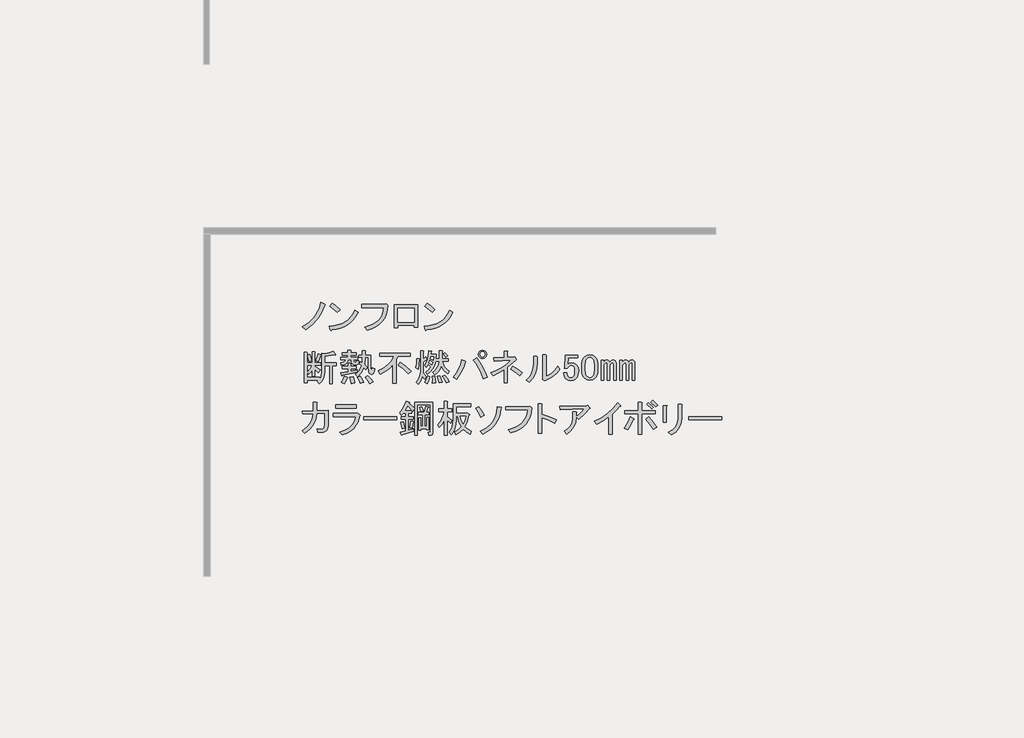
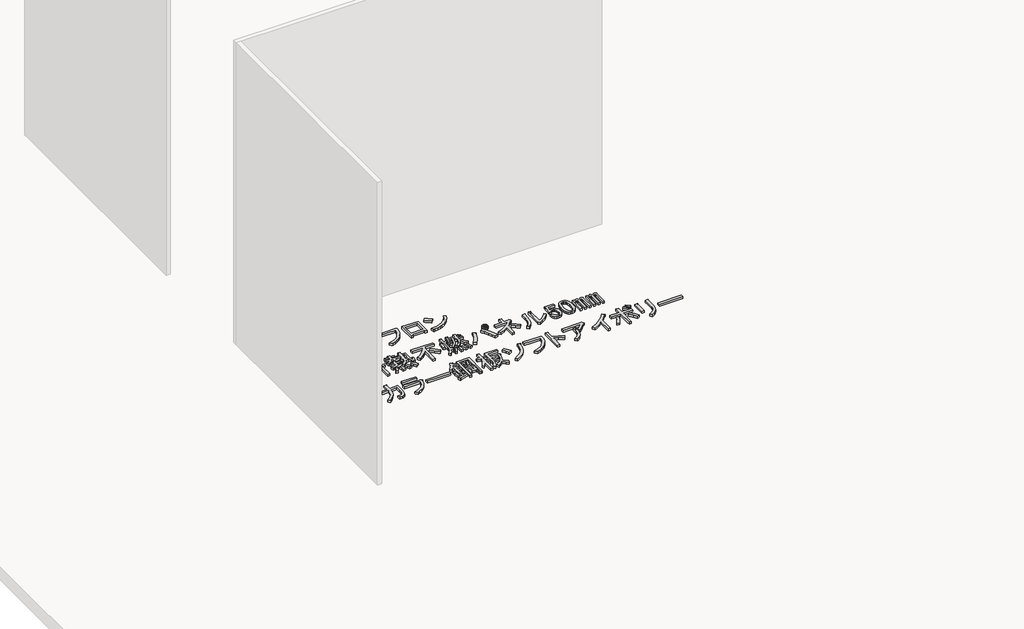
# One storey, part 7 of 117: 1 proxy.
"""IFC4 building model written with IfcOpenShell, lengths in millimetres."""

from ifc_helpers import new_model, si_unit, frame, origin, place, context, project, spatial, polyline, outline, extrude, element, save

model = new_model("IFC4")

# Units and contexts
model_context = context("Model", 3, world=origin())
ifc_project = project(units=[si_unit("LENGTHUNIT", "METRE", prefix="MILLI")], contexts=[model_context])

# Site, building, storey
site = spatial("IfcSite", under=ifc_project)
building = spatial("IfcBuilding", under=site)
storey = spatial("IfcBuildingStorey", under=building, Name="レベル 1", Elevation=500.0)

# Proxy
placement = place(None, origin())
element("IfcBuildingElementProxy", 1, Name="200㎜\u3000MS Pゴシック", ObjectType="200㎜\u3000MS Pゴシック", at=placement, inside=storey, context=model_context, shape_type="SweptSolid", body=[
    extrude(outline(polyline([(-23056.3293015, -24607.0496882), (-23081.9047498, -24666.8215225), (-23110.353844, -24712.7998566), (-23152.0217093, -24758.2034615), (-23201.1610538, -24795.560858), (-23228.7480543, -24773.7211493), (-23181.0455327, -24743.2605029), (-23141.3892195, -24704.7536481), (-23124.0036619, -24680.8305462), (-23108.6296565, -24652.7406577), (-23095.2672031, -24620.4839827), (-23083.9163019, -24584.0605212), (-23052.8809264, -24597.8540214), (-23049.7199159, -24602.4518548), (-23056.3293015, -24607.0496882)])), frame((0.0, 0.0, 500.0), z_axis=(0.0, 0.0, 1.0), x_axis=(1.0, 0.0, 0.0)), (0.0, 0.0, 1.0), 25.0),
    extrude(outline(polyline([(-22956.6022948, -24662.2236891), (-23015.2246708, -24615.0958967), (-22995.6838788, -24590.9572713), (-22968.3842429, -24610.7854279), (-22934.7625862, -24640.3839804), (-22956.6022948, -24662.2236891)])), frame((0.0, 0.0, 500.0), z_axis=(0.0, 0.0, 1.0), x_axis=(1.0, 0.0, 0.0)), (0.0, 0.0, 1.0), 25.0),
    extrude(outline(polyline([(-22794.5286672, -24662.2236891), (-22811.052131, -24691.965924), (-22830.1618761, -24717.9724192), (-22851.8579025, -24740.2431748), (-22876.1402102, -24758.7781907), (-22903.0087992, -24773.577467), (-22932.4636694, -24784.6410036), (-22964.504821, -24791.9688006), (-22999.1322539, -24795.560858), (-23004.8795456, -24803.6070664), (-23010.6268374, -24797.8597747), (-23019.8225042, -24767.9738575), (-22983.9917321, -24765.2977748), (-22951.2142088, -24758.9937141), (-22921.4899342, -24749.0616756), (-22894.8189084, -24735.5016591), (-22871.2011313, -24718.3136646), (-22850.636603, -24697.4976923), (-22833.1253234, -24673.053742), (-22818.6672926, -24644.9818138), (-22794.5286672, -24662.2236891)])), frame((0.0, 0.0, 500.0), z_axis=(0.0, 0.0, 1.0), x_axis=(1.0, 0.0, 0.0)), (0.0, 0.0, 1.0), 25.0),
    extrude(outline(polyline([(-22743.7685864, -24777.1695243), (-22709.985287, -24767.4889298), (-22680.4765359, -24755.1142922), (-22655.242333, -24740.0456116), (-22634.2826783, -24722.282888), (-22617.597572, -24701.8261214), (-22605.1870138, -24678.6753118), (-22597.0510039, -24652.8304591), (-22593.1895423, -24624.2915635), (-22765.6082951, -24624.2915635), (-22765.6082951, -24599.0034798), (-22590.8906256, -24599.0034798), (-22574.7982086, -24595.5551047), (-22562.1541668, -24607.0496882), (-22565.674383, -24643.5449909), (-22573.9361149, -24676.5919185), (-22586.9393625, -24706.1904711), (-22604.6841258, -24732.3406486), (-22627.1704048, -24755.042451), (-22654.3981995, -24774.2958784), (-22686.3675099, -24790.1009308), (-22723.078336, -24802.4576081), (-22743.7685864, -24777.1695243)])), frame((0.0, 0.0, 500.0), z_axis=(0.0, 0.0, 1.0), x_axis=(1.0, 0.0, 0.0)), (0.0, 0.0, 1.0), 25.0),
    extrude(outline(polyline([(-22329.044013, -24776.020066), (-22355.4815551, -24776.020066), (-22355.4815551, -24763.3760241), (-22483.0714321, -24763.3760241), (-22483.0714321, -24781.7673577), (-22509.5089742, -24781.7673577), (-22509.5089742, -24602.4518548), (-22329.044013, -24602.4518548), (-22329.044013, -24776.020066)]), holes=[polyline([(-22483.0714321, -24627.7399386), (-22483.0714321, -24738.0879404), (-22355.4815551, -24738.0879404), (-22355.4815551, -24627.7399386), (-22483.0714321, -24627.7399386)])]), frame((0.0, 0.0, 500.0), z_axis=(0.0, 0.0, 1.0), x_axis=(1.0, 0.0, 0.0)), (0.0, 0.0, 1.0), 25.0),
    extrude(outline(polyline([(-22052.9900951, -24662.2236891), (-22069.5135589, -24691.965924), (-22088.623304, -24717.9724192), (-22110.3193304, -24740.2431748), (-22134.6016381, -24758.7781907), (-22161.4702271, -24773.577467), (-22190.9250974, -24784.6410036), (-22222.9662489, -24791.9688006), (-22257.5936818, -24795.560858), (-22263.3409736, -24803.6070664), (-22269.0882653, -24797.8597747), (-22278.2839321, -24767.9738575), (-22242.4531601, -24765.2977748), (-22209.6756367, -24758.9937141), (-22179.9513622, -24749.0616756), (-22153.2803363, -24735.5016591), (-22129.6625593, -24718.3136646), (-22109.0980309, -24697.4976923), (-22091.5867514, -24673.053742), (-22077.1287205, -24644.9818138), (-22052.9900951, -24662.2236891)])), frame((0.0, 0.0, 500.0), z_axis=(0.0, 0.0, 1.0), x_axis=(1.0, 0.0, 0.0)), (0.0, 0.0, 1.0), 25.0),
    extrude(outline(polyline([(-22215.0637228, -24662.2236891), (-22273.6860987, -24615.0958967), (-22254.1453067, -24590.9572713), (-22226.8456709, -24610.7854279), (-22193.2240141, -24640.3839804), (-22215.0637228, -24662.2236891)])), frame((0.0, 0.0, 500.0), z_axis=(0.0, 0.0, 1.0), x_axis=(1.0, 0.0, 0.0)), (0.0, 0.0, 1.0), 25.0),
    extrude(outline(polyline([(-23122.9978859, -25039.2345221), (-23105.7560106, -24986.3594379), (-23085.0657603, -24992.1067296), (-23083.3415727, -24995.2677401), (-23087.364677, -24997.8540214), (-23104.6065523, -25046.1312722), (-23122.9978859, -25039.2345221)])), frame((0.0, 0.0, 500.0), z_axis=(0.0, 0.0, 1.0), x_axis=(1.0, 0.0, 0.0)), (0.0, 0.0, 1.0), 25.0),
    extrude(outline(polyline([(-22968.9704667, -24990.9572713), (-22970.6946542, -24995.5551047), (-22978.1661335, -24993.256188), (-23055.1798431, -25005.9002299), (-23055.1798431, -25055.326939), (-22963.2231749, -25055.326939), (-22963.2231749, -25077.1666477), (-22994.2585505, -25077.1666477), (-22994.2585505, -25217.4005666), (-23017.2477175, -25217.4005666), (-23017.2477175, -25077.1666477), (-23055.1798431, -25077.1666477), (-23055.1798431, -25126.5933568), (-23057.7661244, -25154.3958807), (-23065.5249683, -25179.1810764), (-23078.4563747, -25200.948944), (-23096.5603438, -25219.6994833), (-23113.8022191, -25200.1586914), (-23103.4570939, -25190.9630245), (-23193.1148454, -25190.9630245), (-23193.1148454, -25212.8027332), (-23216.1040124, -25212.8027332), (-23216.1040124, -24973.715396), (-23194.2643037, -24973.715396), (-23189.3791057, -24976.0143127), (-23193.1148454, -24980.6121461), (-23193.1148454, -25056.4763974), (-23150.5848863, -25056.4763974), (-23150.5848863, -24969.1175626), (-23132.1935527, -24969.1175626), (-23127.3083547, -24971.4164793), (-23131.0440943, -24976.0143127), (-23131.0440943, -25056.4763974), (-23087.364677, -25056.4763974), (-23087.364677, -25074.867731), (-23131.0440943, -25074.867731), (-23131.0440943, -25084.0633978), (-23090.813052, -25110.5009399), (-23104.6065523, -25132.3406486), (-23131.0440943, -25105.9031065), (-23131.0440943, -25158.7781907), (-23150.5848863, -25158.7781907), (-23150.5848863, -25110.5009399), (-23163.8036574, -25130.3290965), (-23178.1718868, -25146.1341488), (-23190.8159287, -25127.7428152), (-23168.97622, -25103.6041898), (-23151.7343447, -25074.867731), (-23193.1148454, -25074.867731), (-23193.1148454, -25169.1233159), (-23095.4108854, -25169.1233159), (-23095.4108854, -25182.9168161), (-23082.479479, -25158.7781907), (-23078.1690102, -25125.4438985), (-23078.1690102, -24980.6121461), (-23056.3293015, -24986.3594379), (-23020.1213634, -24978.8879586), (-22989.660717, -24965.6691875), (-22968.9704667, -24990.9572713)])), frame((0.0, 0.0, 500.0), z_axis=(0.0, 0.0, 1.0), x_axis=(1.0, 0.0, 0.0)), (0.0, 0.0, 1.0), 25.0),
    extrude(outline(polyline([(-23177.0224284, -25047.2807305), (-23189.6664703, -24996.7045631), (-23170.1256783, -24989.8078129), (-23162.3668344, -25013.9464383), (-23157.4816364, -25040.3839804), (-23177.0224284, -25047.2807305)])), frame((0.0, 0.0, 500.0), z_axis=(0.0, 0.0, 1.0), x_axis=(1.0, 0.0, 0.0)), (0.0, 0.0, 1.0), 25.0),
    extrude(outline(polyline([(-22878.1632569, -25167.9738575), (-22874.7148818, -25172.8590555), (-22880.4621736, -25176.020066), (-22890.2325696, -25201.5955143), (-22901.1524239, -25220.8489417), (-22924.141591, -25209.3543582), (-22911.4975491, -25185.790462), (-22901.1524239, -25158.7781907), (-22878.1632569, -25167.9738575)])), frame((0.0, 0.0, 500.0), z_axis=(0.0, 0.0, 1.0), x_axis=(1.0, 0.0, 0.0)), (0.0, 0.0, 1.0), 25.0),
    extrude(outline(polyline([(-22833.3343812, -25163.3760241), (-22823.2766206, -25190.67566), (-22818.3914226, -25212.8027332), (-22847.1278814, -25218.550025), (-22849.7141627, -25196.9976809), (-22857.4730066, -25166.8243992), (-22833.3343812, -25163.3760241)])), frame((0.0, 0.0, 500.0), z_axis=(0.0, 0.0, 1.0), x_axis=(1.0, 0.0, 0.0)), (0.0, 0.0, 1.0), 25.0),
    extrude(outline(polyline([(-22718.388546, -25157.6287323), (-22693.6751914, -25178.8937119), (-22674.7091286, -25203.6070664), (-22701.1466707, -25218.550025), (-22720.4000981, -25188.9514724), (-22739.0787963, -25169.1233159), (-22718.388546, -25157.6287323)])), frame((0.0, 0.0, 500.0), z_axis=(0.0, 0.0, 1.0), x_axis=(1.0, 0.0, 0.0)), (0.0, 0.0, 1.0), 25.0),
    extrude(outline(polyline([(-22777.0109219, -25216.2511083), (-22785.344495, -25191.5377537), (-22798.8506306, -25170.2727742), (-22778.1603803, -25162.2265657), (-22761.2058696, -25183.7789098), (-22749.4239215, -25207.0554415), (-22777.0109219, -25216.2511083)])), frame((0.0, 0.0, 500.0), z_axis=(0.0, 0.0, 1.0), x_axis=(1.0, 0.0, 0.0)), (0.0, 0.0, 1.0), 25.0),
    extrude(outline(polyline([(-22916.0953825, -25153.0308989), (-22918.1069346, -25157.9160969), (-22921.8426743, -25156.479274), (-22927.589966, -25132.3406486), (-22872.4159651, -25124.2944401), (-22872.4159651, -25101.3052731), (-22916.0953825, -25101.3052731), (-22916.0953825, -25082.9139395), (-22872.4159651, -25082.9139395), (-22872.4159651, -25059.9247724), (-22854.0246315, -25059.9247724), (-22849.1394335, -25062.2236891), (-22852.8751732, -25066.8215225), (-22852.8751732, -25082.9139395), (-22808.0462974, -25082.9139395), (-22808.0462974, -25101.3052731), (-22852.8751732, -25101.3052731), (-22852.8751732, -25120.8460651), (-22802.2990057, -25111.6503983), (-22802.2990057, -25127.7428152), (-22916.0953825, -25153.0308989)])), frame((0.0, 0.0, 500.0), z_axis=(0.0, 0.0, 1.0), x_axis=(1.0, 0.0, 0.0)), (0.0, 0.0, 1.0), 25.0),
    extrude(outline(polyline([(-22845.978423, -25031.1883136), (-22871.2665068, -25031.1883136), (-22875.8643402, -25048.6457123), (-22886.2094654, -25061.9363245), (-22902.3018823, -25071.0601502), (-22924.141591, -25076.0171893), (-22928.7394244, -25056.4763974), (-22903.4513406, -25047.8554597), (-22895.9798614, -25040.5276627), (-22891.9567571, -25031.1883136), (-22927.589966, -25031.1883136), (-22927.589966, -25012.79698), (-22873.5654235, -25012.79698), (-22873.5654235, -24995.5551047), (-22917.2448409, -24995.5551047), (-22917.2448409, -24977.1637711), (-22873.5654235, -24977.1637711), (-22873.5654235, -24958.7724374), (-22851.7257148, -24958.7724374), (-22846.8405168, -24961.0713541), (-22850.5762564, -24965.6691875), (-22850.5762564, -24977.1637711), (-22808.0462974, -24977.1637711), (-22808.0462974, -24995.5551047), (-22850.5762564, -24995.5551047), (-22850.5762564, -25012.79698), (-22797.7011723, -25012.79698), (-22797.7011723, -25031.1883136), (-22826.4376311, -25031.1883136), (-22826.4376311, -25043.8323555), (-22825.0008081, -25049.0049181), (-22820.6903393, -25050.7291056), (-22810.3452141, -25050.7291056), (-22806.6094745, -25047.5680951), (-22806.8968391, -25038.0850637), (-22787.3560471, -25040.3839804), (-22790.229693, -25061.9363245), (-22795.5459378, -25067.3244106), (-22803.448464, -25069.1204392), (-22827.5870894, -25069.1204392), (-22841.3805896, -25064.2352412), (-22845.978423, -25049.5796472), (-22845.978423, -25031.1883136)])), frame((0.0, 0.0, 500.0), z_axis=(0.0, 0.0, 1.0), x_axis=(1.0, 0.0, 0.0)), (0.0, 0.0, 1.0), 25.0),
    extrude(outline(polyline([(-22714.9401709, -25013.9464383), (-22736.7798796, -25013.9464383), (-22741.377713, -25071.4193559), (-22721.836921, -25089.8106896), (-22732.1820462, -25111.6503983), (-22748.2744631, -25095.5579813), (-22767.5278905, -25133.2027424), (-22797.7011723, -25165.6749408), (-22814.9430475, -25144.9846905), (-22799.8564067, -25133.0590601), (-22786.7813179, -25117.9724192), (-22775.7177813, -25099.7247679), (-22766.6657967, -25078.316106), (-22783.907672, -25063.3731475), (-22775.8614636, -25046.1312722), (-22762.0679633, -25056.4763974), (-22759.7690466, -25013.9464383), (-22787.3560471, -25013.9464383), (-22787.3560471, -24995.5551047), (-22759.7690466, -24995.5551047), (-22759.7690466, -24961.0713541), (-22737.9293379, -24961.0713541), (-22733.04414, -24963.3702708), (-22736.7798796, -24967.9681043), (-22736.7798796, -24995.5551047), (-22695.3993789, -24995.5551047), (-22695.3993789, -25092.1096063), (-22691.9510039, -25116.2482317), (-22688.7181523, -25118.2597838), (-22685.9163475, -25115.0987733), (-22681.6058787, -25093.2590646), (-22662.0650867, -25100.1558147), (-22666.591079, -25126.9525626), (-22674.421764, -25142.9731384), (-22685.5571418, -25148.2175421), (-22699.9972123, -25142.6857738), (-22706.5347567, -25135.3579768), (-22711.2044313, -25123.719711), (-22714.9401709, -25087.5117729), (-22714.9401709, -25013.9464383)])), frame((0.0, 0.0, 500.0), z_axis=(0.0, 0.0, 1.0), x_axis=(1.0, 0.0, 0.0)), (0.0, 0.0, 1.0), 25.0),
    extrude(outline(polyline([(-22626.4318778, -24980.6121461), (-22385.0456239, -24980.6121461), (-22385.0456239, -25005.9002299), (-22485.0485005, -25005.9002299), (-22495.3936257, -25030.0388553), (-22495.3936257, -25216.2511083), (-22521.8311678, -25216.2511083), (-22521.8311678, -25069.1204392), (-22542.6651004, -25092.3969709), (-22566.0853143, -25112.7998566), (-22592.0918095, -25130.3290965), (-22620.684586, -25144.9846905), (-22636.777003, -25118.5471484), (-22597.192531, -25098.1442626), (-22563.499033, -25072.5688143), (-22535.6965091, -25041.8208034), (-22513.7849593, -25005.9002299), (-22626.4318778, -25005.9002299), (-22626.4318778, -24980.6121461)])), frame((0.0, 0.0, 500.0), z_axis=(0.0, 0.0, 1.0), x_axis=(1.0, 0.0, 0.0)), (0.0, 0.0, 1.0), 25.0),
    extrude(outline(polyline([(-22399.9885824, -25141.5363154), (-22439.0701664, -25103.3168252), (-22480.4506671, -25073.7182726), (-22464.3582502, -25053.0280223), (-22420.6788328, -25081.1897519), (-22379.2983321, -25119.6966067), (-22399.9885824, -25141.5363154)])), frame((0.0, 0.0, 500.0), z_axis=(0.0, 0.0, 1.0), x_axis=(1.0, 0.0, 0.0)), (0.0, 0.0, 1.0), 25.0),
    extrude(outline(polyline([(-22232.167663, -25163.3760241), (-22240.7886007, -25193.8366704), (-22255.1568301, -25220.8489417), (-22274.6976221, -25208.2048998), (-22260.6167573, -25183.4915453), (-22250.5589967, -25155.3298156), (-22232.167663, -25163.3760241)])), frame((0.0, 0.0, 500.0), z_axis=(0.0, 0.0, 1.0), x_axis=(1.0, 0.0, 0.0)), (0.0, 0.0, 1.0), 25.0),
    extrude(outline(polyline([(-22317.2275811, -25025.4410219), (-22312.6297477, -25027.7399386), (-22317.2275811, -25032.337772), (-22318.3770395, -25071.9940851), (-22324.1243312, -25105.9031065), (-22342.5156648, -25093.2590646), (-22336.7683731, -25058.7753141), (-22335.6189147, -25021.9926468), (-22317.2275811, -25025.4410219)])), frame((0.0, 0.0, 500.0), z_axis=(0.0, 0.0, 1.0), x_axis=(1.0, 0.0, 0.0)), (0.0, 0.0, 1.0), 25.0),
    extrude(outline(polyline([(-22265.5019553, -25007.0496882), (-22256.3062884, -25024.2915635), (-22254.8694655, -25030.3262199), (-22259.7546635, -25030.0388553), (-22286.1922056, -25050.7291056), (-22286.1922056, -25134.6395653), (-22272.3987054, -25146.9962426), (-22260.9041219, -25163.3760241), (-22273.5481637, -25184.0662744), (-22291.9394974, -25158.7781907), (-22303.7214455, -25194.6987642), (-22325.2737896, -25224.2973168), (-22340.2167481, -25205.9059831), (-22325.1301073, -25187.1554438), (-22314.3539352, -25166.5370346), (-22307.888232, -25144.0507556), (-22305.7329976, -25119.6966067), (-22305.7329976, -24962.2208125), (-22287.3416639, -24962.2208125), (-22282.456466, -24964.5197292), (-22286.1922056, -24969.1175626), (-22286.1922056, -25027.7399386), (-22265.5019553, -25007.0496882)])), frame((0.0, 0.0, 500.0), z_axis=(0.0, 0.0, 1.0), x_axis=(1.0, 0.0, 0.0)), (0.0, 0.0, 1.0), 25.0),
    extrude(outline(polyline([(-22114.9229111, -24976.0143127), (-22093.0832025, -25000.1529381), (-22110.3250777, -25011.6475216), (-22116.9344633, -25000.1529381), (-22129.8658697, -24986.3594379), (-22114.9229111, -24976.0143127)])), frame((0.0, 0.0, 500.0), z_axis=(0.0, 0.0, 1.0), x_axis=(1.0, 0.0, 0.0)), (0.0, 0.0, 1.0), 25.0),
    extrude(outline(polyline([(-22104.577786, -25212.8027332), (-22117.796557, -25184.6410036), (-22134.4637031, -25159.927649), (-22116.0723695, -25151.8814406), (-22097.1063067, -25174.8706076), (-22081.5886189, -25202.4576081), (-22104.577786, -25212.8027332)])), frame((0.0, 0.0, 500.0), z_axis=(0.0, 0.0, 1.0), x_axis=(1.0, 0.0, 0.0)), (0.0, 0.0, 1.0), 25.0),
    extrude(outline(polyline([(-22154.0044951, -25157.6287323), (-22135.6131615, -25207.0554415), (-22159.7517869, -25211.6532749), (-22173.5452871, -25161.0771074), (-22154.0044951, -25157.6287323)])), frame((0.0, 0.0, 500.0), z_axis=(0.0, 0.0, 1.0), x_axis=(1.0, 0.0, 0.0)), (0.0, 0.0, 1.0), 25.0),
    extrude(outline(polyline([(-22212.6268711, -25215.1016499), (-22212.0521419, -25188.0893787), (-22214.9257878, -25159.927649), (-22195.3849958, -25158.7781907), (-22189.0629748, -25184.9283682), (-22188.4882457, -25212.8027332), (-22212.6268711, -25215.1016499)])), frame((0.0, 0.0, 500.0), z_axis=(0.0, 0.0, 1.0), x_axis=(1.0, 0.0, 0.0)), (0.0, 0.0, 1.0), 25.0),
    extrude(outline(polyline([(-22093.0832025, -25142.6857738), (-22123.8312134, -25112.2251274), (-22144.8088283, -25078.316106), (-22153.2142425, -25100.4431793), (-22164.6369849, -25119.6966067), (-22179.0770554, -25136.0763882), (-22196.5344541, -25149.5825239), (-22210.3279544, -25131.1911902), (-22189.4940217, -25112.2969686), (-22174.1200163, -25091.2475125), (-22164.205938, -25068.042822), (-22159.7517869, -25042.6828971), (-22188.4882457, -25042.6828971), (-22196.462613, -25073.2872258), (-22210.0405898, -25100.7305439), (-22229.222176, -25125.0128516), (-22254.0073717, -25146.1341488), (-22266.6514136, -25130.0417319), (-22240.7886007, -25108.4893878), (-22225.2709129, -25087.5117729), (-22247.1106216, -25067.9709809), (-22260.9041219, -25088.6612312), (-22274.6976221, -25073.7182726), (-22262.2691036, -25054.6803687), (-22252.5705488, -25029.7514907), (-22245.6019575, -24998.9316386), (-22241.3633299, -24962.2208125), (-22220.6730795, -24964.5197292), (-22217.2247045, -24967.1060105), (-22222.9719962, -24970.267021), (-22225.2709129, -24988.6583546), (-22181.5914956, -24988.6583546), (-22185.0398706, -25024.2915635), (-22159.7517869, -25024.2915635), (-22159.7517869, -24962.2208125), (-22137.9120782, -24962.2208125), (-22133.0268802, -24964.5197292), (-22136.7626198, -24969.1175626), (-22136.7626198, -25024.2915635), (-22087.3359107, -25024.2915635), (-22087.3359107, -25042.6828971), (-22136.7626198, -25042.6828971), (-22130.2250755, -25064.4507647), (-22118.6586508, -25084.9254916), (-22102.0633458, -25104.1070778), (-22080.4391606, -25121.9955234), (-22093.0832025, -25142.6857738)]), holes=[polyline([(-22217.2247045, -25072.5688143), (-22210.3279544, -25053.0280223), (-22235.6160381, -25036.9356054), (-22241.3633299, -25054.1774807), (-22217.2247045, -25072.5688143)]), polyline([(-22227.5698296, -25007.0496882), (-22231.0182047, -25023.1421052), (-22205.730121, -25036.9356054), (-22201.1322875, -25007.0496882), (-22227.5698296, -25007.0496882)])]), frame((0.0, 0.0, 500.0), z_axis=(0.0, 0.0, 1.0), x_axis=(1.0, 0.0, 0.0)), (0.0, 0.0, 1.0), 25.0),
    extrude(outline(polyline([(-21867.7893655, -25016.245355), (-21841.1362999, -25052.9561812), (-21818.6500209, -25090.6727833), (-21800.3305284, -25129.3951616), (-21786.1778225, -25169.1233159), (-21817.213198, -25179.468441), (-21832.6590446, -25136.3637528), (-21850.2601256, -25097.856898), (-21870.016441, -25063.9478766), (-21891.9279908, -25034.6366887), (-21867.7893655, -25016.245355)])), frame((0.0, 0.0, 500.0), z_axis=(0.0, 0.0, 1.0), x_axis=(1.0, 0.0, 0.0)), (0.0, 0.0, 1.0), 25.0),
    extrude(outline(polyline([(-21955.1482002, -25042.6828971), (-21951.125096, -25048.1428243), (-21957.4471169, -25053.0280223), (-21969.3727473, -25088.4457078), (-21984.4593882, -25122.282888), (-22002.7070395, -25154.539563), (-22024.1157013, -25185.2157328), (-22050.5532434, -25167.9738575), (-22027.3485529, -25136.5074351), (-22008.310649, -25103.0294606), (-21993.4395316, -25067.539934), (-21982.7352007, -25030.0388553), (-21955.1482002, -25042.6828971)])), frame((0.0, 0.0, 500.0), z_axis=(0.0, 0.0, 1.0), x_axis=(1.0, 0.0, 0.0)), (0.0, 0.0, 1.0), 25.0),
    extrude(outline(polyline([(-21821.8110314, -25021.9926468), (-21834.4550732, -25019.6937301), (-21844.8001984, -25012.79698), (-21851.6969485, -25002.4518548), (-21853.9958652, -24989.8078129), (-21851.6969485, -24977.1637711), (-21844.8001984, -24966.8186459), (-21834.4550732, -24959.9218958), (-21821.8110314, -24957.6229791), (-21809.1669895, -24959.9218958), (-21798.8218643, -24966.8186459), (-21791.9251142, -24977.1637711), (-21789.6261975, -24989.8078129), (-21791.9251142, -25002.4518548), (-21798.8218643, -25012.79698), (-21809.1669895, -25019.6937301), (-21821.8110314, -25021.9926468)]), holes=[polyline([(-21821.8110314, -25010.4980633), (-21813.4774583, -25009.0612403), (-21806.8680728, -25004.7507715), (-21802.557604, -24998.141386), (-21801.120781, -24989.8078129), (-21802.557604, -24981.4742399), (-21806.8680728, -24974.8648544), (-21813.4774583, -24970.5543855), (-21821.8110314, -24969.1175626), (-21830.1446044, -24970.5543855), (-21836.7539899, -24974.8648544), (-21841.0644588, -24981.4742399), (-21842.5012817, -24989.8078129), (-21841.0644588, -24998.141386), (-21836.7539899, -25004.7507715), (-21830.1446044, -25009.0612403), (-21821.8110314, -25010.4980633)])]), frame((0.0, 0.0, 500.0), z_axis=(0.0, 0.0, 1.0), x_axis=(1.0, 0.0, 0.0)), (0.0, 0.0, 1.0), 25.0),
    extrude(outline(polyline([(-21578.1258607, -25011.6475216), (-21571.2291106, -25009.3486049), (-21558.5850688, -25026.5904802), (-21557.4356104, -25032.6251366), (-21563.1829022, -25034.6366887), (-21626.4031115, -25090.9601479), (-21626.4031115, -25211.6532749), (-21652.8406536, -25211.6532749), (-21652.8406536, -25109.3514816), (-21693.0716959, -25133.4901069), (-21737.9005717, -25155.3298156), (-21757.4413637, -25134.6395653), (-21711.8940765, -25115.1706145), (-21670.6572581, -25092.3969709), (-21633.7309085, -25066.3186345), (-21601.1150278, -25036.9356054), (-21731.0038216, -25042.6828971), (-21734.4521966, -25017.3948134), (-21652.8406536, -25015.0958967), (-21652.8406536, -24963.3702708), (-21629.8514866, -24963.3702708), (-21623.8168302, -24966.8186459), (-21626.4031115, -24972.5659377), (-21626.4031115, -25013.9464383), (-21578.1258607, -25011.6475216)])), frame((0.0, 0.0, 500.0), z_axis=(0.0, 0.0, 1.0), x_axis=(1.0, 0.0, 0.0)), (0.0, 0.0, 1.0), 25.0),
    extrude(outline(polyline([(-21532.1475267, -25155.3298156), (-21569.2175585, -25126.0186277), (-21602.2644861, -25104.7536481), (-21585.0226108, -25082.9139395), (-21546.2283915, -25106.1904711), (-21512.6067347, -25132.3406486), (-21532.1475267, -25155.3298156)])), frame((0.0, 0.0, 500.0), z_axis=(0.0, 0.0, 1.0), x_axis=(1.0, 0.0, 0.0)), (0.0, 0.0, 1.0), 25.0),
    extrude(outline(polyline([(-21325.1530666, -25162.2265657), (-21300.3678709, -25150.0135708), (-21276.5884512, -25132.9153778), (-21253.8148076, -25110.9319868), (-21232.0469401, -25084.0633978), (-21215.9545232, -25105.9031065), (-21239.2310548, -25133.7056304), (-21265.3812323, -25157.3413678), (-21294.4050557, -25176.8103186), (-21326.302525, -25192.1124829), (-21335.4981918, -25196.7103163), (-21353.8895254, -25182.9168161), (-21351.5906087, -25177.1695243), (-21351.5906087, -24992.1067296), (-21327.4519833, -24992.1067296), (-21321.7046916, -24995.5551047), (-21325.1530666, -25001.3023965), (-21325.1530666, -25162.2265657)])), frame((0.0, 0.0, 500.0), z_axis=(0.0, 0.0, 1.0), x_axis=(1.0, 0.0, 0.0)), (0.0, 0.0, 1.0), 25.0),
    extrude(outline(polyline([(-21479.1804858, -25193.2619413), (-21454.0360843, -25164.0225944), (-21436.0757976, -25131.4785548), (-21425.2996255, -25095.6298225), (-21421.7075682, -25056.4763974), (-21421.7075682, -25004.7507715), (-21397.5689428, -25004.7507715), (-21391.821651, -25008.1991466), (-21395.2700261, -25013.9464383), (-21395.2700261, -25055.326939), (-21399.0776069, -25101.0897496), (-21410.5003493, -25141.82368), (-21429.5382532, -25177.5287301), (-21456.1913188, -25208.2048998), (-21479.1804858, -25193.2619413)])), frame((0.0, 0.0, 500.0), z_axis=(0.0, 0.0, 1.0), x_axis=(1.0, 0.0, 0.0)), (0.0, 0.0, 1.0), 25.0),
    extrude(outline(polyline([(-21174.5740225, -24995.5551047), (-21075.7206042, -24995.5551047), (-21075.7206042, -25017.3948134), (-21152.7343138, -25017.3948134), (-21152.7343138, -25020.8431884), (-21156.1826889, -25063.3731475), (-21157.3321472, -25070.2698976), (-21141.8144595, -25059.9247724), (-21125.1473134, -25056.4763974), (-21104.1696984, -25060.212137), (-21087.2151877, -25071.4193559), (-21075.145875, -25091.2475125), (-21071.1227708, -25118.5471484), (-21076.2953334, -25153.0308989), (-21082.7610366, -25166.8243992), (-21091.8130212, -25178.3189827), (-21109.9169902, -25190.3882954), (-21132.0440635, -25194.4113996), (-21153.0216784, -25190.67566), (-21169.9761891, -25179.468441), (-21182.0455018, -25160.7897428), (-21188.3675227, -25134.6395653), (-21161.9299806, -25134.6395653), (-21157.9068764, -25153.3182635), (-21150.4353971, -25165.6749408), (-21142.6765532, -25170.8475034), (-21133.1935218, -25172.5716909), (-21120.8368445, -25170.5601388), (-21111.3538131, -25164.5254825), (-21101.8707817, -25147.5709718), (-21098.7097713, -25121.9955234), (-21101.2960526, -25097.856898), (-21109.0548964, -25082.9139395), (-21116.5263757, -25077.7413769), (-21125.1473134, -25076.0171893), (-21138.0787198, -25078.6034706), (-21149.2859388, -25086.3623145), (-21158.4816056, -25096.7074397), (-21181.4707726, -25096.7074397), (-21180.3213143, -25088.6612312), (-21174.5740225, -25000.1529381), (-21174.5740225, -24995.5551047)])), frame((0.0, 0.0, 500.0), z_axis=(0.0, 0.0, 1.0), x_axis=(1.0, 0.0, 0.0)), (0.0, 0.0, 1.0), 25.0),
    extrude(outline(polyline([(-21045.8346871, -25081.7644811), (-21044.3978641, -25058.2005849), (-21040.0873953, -25038.0850637), (-21032.9032806, -25021.4179176), (-21022.84552, -25008.1991466), (-21004.741551, -24996.1298339), (-20982.6144777, -24992.1067296), (-20960.4874044, -24996.1298339), (-20942.3834354, -25008.1991466), (-20932.3256748, -25021.4179176), (-20925.1415601, -25038.0850637), (-20920.8310913, -25058.2005849), (-20919.3942683, -25081.7644811), (-20919.3942683, -25104.7536481), (-20920.8310913, -25127.8146563), (-20925.1415601, -25147.5709718), (-20932.3256748, -25164.0225944), (-20942.3834354, -25177.1695243), (-20960.4874044, -25189.238837), (-20982.6144777, -25193.2619413), (-21004.741551, -25189.238837), (-21022.84552, -25177.1695243), (-21032.9032806, -25164.0225944), (-21040.0873953, -25147.5709718), (-21044.3978641, -25127.8146563), (-21045.8346871, -25104.7536481), (-21045.8346871, -25081.7644811)]), holes=[polyline([(-20982.6144777, -25013.9464383), (-20993.5343321, -25016.245355), (-21003.304728, -25023.1421052), (-21009.8422724, -25032.2659308), (-21014.511947, -25044.6944493), (-21018.2476866, -25079.4655644), (-21018.2476866, -25105.9031065), (-21014.2245824, -25140.0994925), (-21009.1957021, -25152.6716932), (-21002.1552697, -25162.2265657), (-20992.6722383, -25169.1233159), (-20982.6144777, -25171.4222326), (-20971.6946234, -25169.1233159), (-20961.9242274, -25162.2265657), (-20955.386683, -25153.1027401), (-20950.7170084, -25140.6742216), (-20946.9812688, -25105.9031065), (-20946.9812688, -25079.4655644), (-20950.7170084, -25044.6944493), (-20955.386683, -25032.2659308), (-20961.9242274, -25023.1421052), (-20971.6946234, -25016.245355), (-20982.6144777, -25013.9464383)])]), frame((0.0, 0.0, 500.0), z_axis=(0.0, 0.0, 1.0), x_axis=(1.0, 0.0, 0.0)), (0.0, 0.0, 1.0), 25.0),
    extrude(outline(polyline([(-20652.7199307, -25032.337772), (-20644.3863576, -25033.7745949), (-20637.7769721, -25038.0850637), (-20632.6044095, -25046.7060014), (-20630.880222, -25058.7753141), (-20630.880222, -25193.2619413), (-20650.421014, -25193.2619413), (-20650.421014, -25069.1204392), (-20653.0072953, -25059.6374078), (-20660.7661391, -25056.4763974), (-20671.1112643, -25061.0742308), (-20677.1459207, -25069.6951684), (-20679.1574728, -25079.4655644), (-20679.1574728, -25193.2619413), (-20698.6982648, -25193.2619413), (-20698.6982648, -25069.1204392), (-20701.284546, -25059.6374078), (-20709.0433899, -25056.4763974), (-20719.3885151, -25061.0742308), (-20725.4231714, -25069.6951684), (-20727.4347236, -25079.4655644), (-20727.4347236, -25193.2619413), (-20746.9755155, -25193.2619413), (-20746.9755155, -25035.786147), (-20727.4347236, -25035.786147), (-20727.4347236, -25053.0280223), (-20715.3654109, -25037.5103346), (-20702.1466398, -25032.337772), (-20692.950973, -25033.7745949), (-20686.0542229, -25038.0850637), (-20679.1574728, -25051.878564), (-20666.2260663, -25037.22297), (-20652.7199307, -25032.337772)])), frame((0.0, 0.0, 500.0), z_axis=(0.0, 0.0, 1.0), x_axis=(1.0, 0.0, 0.0)), (0.0, 0.0, 1.0), 25.0),
    extrude(outline(polyline([(-20874.5653926, -25193.2619413), (-20894.1061846, -25193.2619413), (-20894.1061846, -25035.786147), (-20874.5653926, -25035.786147), (-20874.5653926, -25053.0280223), (-20862.4960799, -25037.5103346), (-20849.2773089, -25032.337772), (-20840.0816421, -25033.7745949), (-20833.1848919, -25038.0850637), (-20826.2881418, -25051.878564), (-20813.3567354, -25037.22297), (-20799.8505997, -25032.337772), (-20791.5170267, -25033.7745949), (-20784.9076412, -25038.0850637), (-20779.7350786, -25046.7060014), (-20778.010891, -25058.7753141), (-20778.010891, -25193.2619413), (-20797.551683, -25193.2619413), (-20797.551683, -25069.1204392), (-20800.1379643, -25059.6374078), (-20807.8968082, -25056.4763974), (-20818.2419334, -25061.0742308), (-20824.2765897, -25069.6951684), (-20826.2881418, -25079.4655644), (-20826.2881418, -25193.2619413), (-20845.8289338, -25193.2619413), (-20845.8289338, -25069.1204392), (-20848.4152151, -25059.6374078), (-20856.174059, -25056.4763974), (-20866.5191842, -25061.0742308), (-20872.5538405, -25069.6951684), (-20874.5653926, -25079.4655644), (-20874.5653926, -25193.2619413)])), frame((0.0, 0.0, 500.0), z_axis=(0.0, 0.0, 1.0), x_axis=(1.0, 0.0, 0.0)), (0.0, 0.0, 1.0), 25.0),
    extrude(outline(polyline([(-23052.8809264, -25450.7291056), (-23118.4000525, -25453.0280223), (-23126.6617844, -25499.293721), (-23144.55023, -25540.3868571), (-23172.0653893, -25576.3074306), (-23209.2072623, -25607.0554415), (-23228.7480543, -25587.5146495), (-23193.7614157, -25559.2810787), (-23168.1141262, -25527.4554506), (-23151.8061858, -25492.0377651), (-23144.8375946, -25453.0280223), (-23226.4491376, -25455.326939), (-23228.7480543, -25432.337772), (-23143.6881362, -25430.0388553), (-23143.6881362, -25365.6691875), (-23119.5495108, -25365.6691875), (-23112.6527607, -25369.1175626), (-23117.2505941, -25374.8648544), (-23117.2505941, -25430.0388553), (-23026.4433843, -25426.5904802), (-23026.4433843, -25497.856898), (-23029.0296656, -25545.8467842), (-23036.7885095, -25577.1695243), (-23043.397895, -25587.2272849), (-23052.8809264, -25594.4113996), (-23065.2376037, -25598.7218684), (-23080.4679269, -25600.1586914), (-23108.0549273, -25600.1586914), (-23111.5033024, -25571.4222326), (-23081.6173852, -25573.7211493), (-23067.5365204, -25570.8475034), (-23059.7776765, -25562.2265657), (-23054.6051139, -25536.938482), (-23052.8809264, -25497.856898), (-23052.8809264, -25450.7291056)])), frame((0.0, 0.0, 500.0), z_axis=(0.0, 0.0, 1.0), x_axis=(1.0, 0.0, 0.0)), (0.0, 0.0, 1.0), 25.0),
    extrude(outline(polyline([(-22938.0270479, -25596.7103163), (-22888.3848153, -25578.3908238), (-22868.1435721, -25566.2676303), (-22850.9555777, -25552.1688052), (-22836.820832, -25536.0943485), (-22825.7393351, -25518.0442603), (-22817.7110869, -25498.0185406), (-22812.7360875, -25476.0171893), (-22987.453757, -25476.0171893), (-22987.453757, -25450.7291056), (-22811.5866291, -25450.7291056), (-22801.241504, -25447.2807305), (-22780.5512536, -25459.9247724), (-22777.6776078, -25465.3846996), (-22782.8501703, -25470.2698976), (-22788.9746281, -25497.7491363), (-22798.1523347, -25522.7139349), (-22810.3832899, -25545.1642933), (-22825.667494, -25565.1002116), (-22844.0049467, -25582.5216898), (-22865.3956483, -25597.4287278), (-22889.8395985, -25609.8213256), (-22917.3367975, -25619.6994833), (-22938.0270479, -25596.7103163)])), frame((0.0, 0.0, 500.0), z_axis=(0.0, 0.0, 1.0), x_axis=(1.0, 0.0, 0.0)), (0.0, 0.0, 1.0), 25.0),
    extrude(outline(polyline([(-22808.1382541, -25410.4980633), (-22966.7635067, -25410.4980633), (-22966.7635067, -25385.2099795), (-22808.1382541, -25385.2099795), (-22808.1382541, -25410.4980633)])), frame((0.0, 0.0, 500.0), z_axis=(0.0, 0.0, 1.0), x_axis=(1.0, 0.0, 0.0)), (0.0, 0.0, 1.0), 25.0),
    extrude(outline(polyline([(-22749.1020731, -25501.3052731), (-22749.1020731, -25476.0171893), (-22492.7728606, -25476.0171893), (-22492.7728606, -25501.3052731), (-22749.1020731, -25501.3052731)])), frame((0.0, 0.0, 500.0), z_axis=(0.0, 0.0, 1.0), x_axis=(1.0, 0.0, 0.0)), (0.0, 0.0, 1.0), 25.0),
    extrude(outline(polyline([(-22365.4588536, -25434.6366887), (-22406.8393542, -25390.9572713), (-22428.6790629, -25430.0388553), (-22373.505062, -25430.0388553), (-22373.505062, -25448.4301889), (-22399.9426041, -25448.4301889), (-22399.9426041, -25477.1666477), (-22362.0104785, -25477.1666477), (-22362.0104785, -25495.5579813), (-22399.9426041, -25495.5579813), (-22399.9426041, -25582.9168161), (-22360.8610201, -25572.5716909), (-22358.5621034, -25592.1124829), (-22450.5187716, -25617.4005666), (-22452.8176883, -25623.1478584), (-22457.4155217, -25619.6994833), (-22464.3122718, -25596.7103163), (-22419.4833961, -25587.5146495), (-22419.4833961, -25495.5579813), (-22457.4155217, -25495.5579813), (-22457.4155217, -25477.1666477), (-22419.4833961, -25477.1666477), (-22419.4833961, -25448.4301889), (-22441.3231048, -25448.4301889), (-22456.2660634, -25466.8215225), (-22468.9101052, -25446.1312722), (-22440.7483756, -25408.4865112), (-22416.035021, -25357.6229791), (-22394.1953124, -25363.3702708), (-22390.7469373, -25367.1060105), (-22396.4942291, -25369.1175626), (-22397.6436874, -25372.5659377), (-22352.8148117, -25410.4980633), (-22365.4588536, -25434.6366887)])), frame((0.0, 0.0, 500.0), z_axis=(0.0, 0.0, 1.0), x_axis=(1.0, 0.0, 0.0)), (0.0, 0.0, 1.0), 25.0),
    extrude(outline(polyline([(-22297.6408108, -25397.8540214), (-22290.4566961, -25413.0843446), (-22284.9967689, -25433.4872303), (-22302.2386442, -25439.2345221), (-22313.7332277, -25402.4518548), (-22297.6408108, -25397.8540214)])), frame((0.0, 0.0, 500.0), z_axis=(0.0, 0.0, 1.0), x_axis=(1.0, 0.0, 0.0)), (0.0, 0.0, 1.0), 25.0),
    extrude(outline(polyline([(-22244.7657266, -25399.0034798), (-22242.1794453, -25402.4518548), (-22248.2141016, -25405.9002299), (-22260.8581435, -25443.8323555), (-22240.1678932, -25443.8323555), (-22240.1678932, -25462.2236891), (-22271.2032687, -25462.2236891), (-22271.2032687, -25550.7319822), (-22256.2603101, -25550.7319822), (-22256.2603101, -25482.9139395), (-22240.1678932, -25482.9139395), (-22240.1678932, -25577.1695243), (-22256.2603101, -25577.1695243), (-22256.2603101, -25569.1233159), (-22302.2386442, -25569.1233159), (-22302.2386442, -25581.7673577), (-22318.3310611, -25581.7673577), (-22318.3310611, -25485.2128562), (-22302.2386442, -25485.2128562), (-22302.2386442, -25550.7319822), (-22287.2956856, -25550.7319822), (-22287.2956856, -25462.2236891), (-22322.9288945, -25462.2236891), (-22322.9288945, -25443.8323555), (-22276.9505604, -25443.8323555), (-22266.6054353, -25394.4056463), (-22244.7657266, -25399.0034798)])), frame((0.0, 0.0, 500.0), z_axis=(0.0, 0.0, 1.0), x_axis=(1.0, 0.0, 0.0)), (0.0, 0.0, 1.0), 25.0),
    extrude(outline(polyline([(-22350.515895, -25365.6691875), (-22210.281976, -25365.6691875), (-22210.281976, -25605.9059831), (-22214.0177157, -25617.1132021), (-22225.2249346, -25620.8489417), (-22241.3173515, -25620.8489417), (-22245.9151849, -25599.009233), (-22234.4206014, -25599.009233), (-22230.9722264, -25597.8597747), (-22229.822768, -25594.4113996), (-22229.822768, -25384.0605212), (-22330.975103, -25384.0605212), (-22330.975103, -25623.1478584), (-22350.515895, -25623.1478584), (-22350.515895, -25365.6691875)])), frame((0.0, 0.0, 500.0), z_axis=(0.0, 0.0, 1.0), x_axis=(1.0, 0.0, 0.0)), (0.0, 0.0, 1.0), 25.0),
    extrude(outline(polyline([(-22362.0104785, -25513.949315), (-22359.4241972, -25517.1103254), (-22363.1599368, -25519.6966067), (-22371.2061453, -25566.8243992), (-22389.5974789, -25564.5254825), (-22383.8501872, -25510.5009399), (-22362.0104785, -25513.949315)])), frame((0.0, 0.0, 500.0), z_axis=(0.0, 0.0, 1.0), x_axis=(1.0, 0.0, 0.0)), (0.0, 0.0, 1.0), 25.0),
    extrude(outline(polyline([(-22439.0241881, -25515.0987733), (-22427.5296046, -25566.8243992), (-22448.2198549, -25572.5716909), (-22459.7144384, -25520.8460651), (-22439.0241881, -25515.0987733)])), frame((0.0, 0.0, 500.0), z_axis=(0.0, 0.0, 1.0), x_axis=(1.0, 0.0, 0.0)), (0.0, 0.0, 1.0), 25.0),
    extrude(outline(polyline([(-22039.0126816, -25594.4113996), (-22010.2762228, -25577.1695243), (-21988.4365141, -25555.3298156), (-22006.2531185, -25513.3745858), (-22016.0235145, -25472.5688143), (-22028.6675564, -25472.5688143), (-22028.6675564, -25496.7074397), (-22031.1101554, -25538.4471461), (-22038.4379524, -25572.8590555), (-22050.6509474, -25599.9431679), (-22067.7491404, -25619.6994833), (-22081.5426406, -25596.7103163), (-22068.4675518, -25579.3247587), (-22059.1282027, -25557.0540032), (-22053.5245933, -25529.8980496), (-22051.6567234, -25497.856898), (-22051.6567234, -25377.1637711), (-21914.8711796, -25377.1637711), (-21914.8711796, -25399.0034798), (-22028.6675564, -25399.0034798), (-22028.6675564, -25450.7291056), (-21949.3549301, -25450.7291056), (-21943.6076384, -25444.9818138), (-21924.0668464, -25458.7753141), (-21922.6300234, -25462.5110537), (-21927.5152214, -25466.8215225), (-21939.8718987, -25513.3745858), (-21958.5505969, -25554.1803573), (-21939.5845341, -25572.5716909), (-21907.9744294, -25590.9630245), (-21917.1700963, -25615.1016499), (-21945.0444613, -25599.009233), (-21973.4935555, -25573.7211493), (-21997.9195455, -25598.1471392), (-22029.8170148, -25618.550025), (-22039.0126816, -25594.4113996)]), holes=[polyline([(-21994.1838058, -25472.5688143), (-21986.1375974, -25505.6157419), (-21973.4935555, -25533.4901069), (-21960.8495136, -25507.3399294), (-21952.8033052, -25472.5688143), (-21994.1838058, -25472.5688143)])]), frame((0.0, 0.0, 500.0), z_axis=(0.0, 0.0, 1.0), x_axis=(1.0, 0.0, 0.0)), (0.0, 0.0, 1.0), 25.0),
    extrude(outline(polyline([(-22121.7736829, -25623.1478584), (-22121.7736829, -25503.6041898), (-22139.5902874, -25537.8005758), (-22158.5563502, -25559.927649), (-22170.0509337, -25539.2373987), (-22152.8090584, -25516.5355963), (-22139.0155582, -25492.1096063), (-22128.670433, -25465.9594288), (-22121.7736829, -25438.0850637), (-22163.1541836, -25438.0850637), (-22163.1541836, -25416.245355), (-22121.7736829, -25416.245355), (-22121.7736829, -25356.4735207), (-22099.9339742, -25356.4735207), (-22095.0487762, -25358.7724374), (-22098.7845159, -25363.3702708), (-22098.7845159, -25416.245355), (-22060.8523903, -25416.245355), (-22060.8523903, -25438.0850637), (-22098.7845159, -25438.0850637), (-22098.7845159, -25478.316106), (-22060.8523903, -25504.7536481), (-22071.1975154, -25527.7428152), (-22098.7845159, -25504.7536481), (-22098.7845159, -25623.1478584), (-22121.7736829, -25623.1478584)])), frame((0.0, 0.0, 500.0), z_axis=(0.0, 0.0, 1.0), x_axis=(1.0, 0.0, 0.0)), (0.0, 0.0, 1.0), 25.0),
    extrude(outline(polyline([(-21741.3029684, -25517.39769), (-21729.1618145, -25496.5637574), (-21719.1758951, -25469.6951684), (-21711.3452101, -25436.7919231), (-21705.6697595, -25397.8540214), (-21676.9333007, -25402.4518548), (-21672.0481027, -25406.1875945), (-21678.082759, -25412.79698), (-21683.3271628, -25448.1428243), (-21692.1636238, -25480.6150228), (-21704.5921423, -25510.2135753), (-21720.6127181, -25536.938482), (-21736.705135, -25555.9045448), (-21758.5448437, -25574.8706076), (-21819.4661363, -25612.8027332), (-21840.1563867, -25592.1124829), (-21809.4083758, -25576.2355894), (-21782.6834691, -25558.4908261), (-21759.9816666, -25538.878193), (-21741.3029684, -25517.39769)])), frame((0.0, 0.0, 500.0), z_axis=(0.0, 0.0, 1.0), x_axis=(1.0, 0.0, 0.0)), (0.0, 0.0, 1.0), 25.0),
    extrude(outline(polyline([(-21835.5585533, -25479.4655644), (-21855.961439, -25440.0966158), (-21875.7895956, -25411.6475216), (-21850.5015118, -25397.8540214), (-21830.3859907, -25426.5904802), (-21809.1210112, -25464.5226058), (-21835.5585533, -25479.4655644)])), frame((0.0, 0.0, 500.0), z_axis=(0.0, 0.0, 1.0), x_axis=(1.0, 0.0, 0.0)), (0.0, 0.0, 1.0), 25.0),
    extrude(outline(polyline([(-21619.6902747, -25577.1695243), (-21585.9069754, -25567.4889298), (-21556.3982242, -25555.1142922), (-21531.1640214, -25540.0456116), (-21510.2043667, -25522.282888), (-21493.5192603, -25501.8261214), (-21481.1087022, -25478.6753118), (-21472.9726923, -25452.8304591), (-21469.1112306, -25424.2915635), (-21641.5299834, -25424.2915635), (-21641.5299834, -25399.0034798), (-21466.8123139, -25399.0034798), (-21450.719897, -25395.5551047), (-21438.0758551, -25407.0496882), (-21441.5960713, -25443.5449909), (-21449.8578032, -25476.5919185), (-21462.8610508, -25506.1904711), (-21480.6058141, -25532.3406486), (-21503.0920932, -25555.042451), (-21530.3198879, -25574.2958784), (-21562.2891983, -25590.1009308), (-21599.0000244, -25602.4576081), (-21619.6902747, -25577.1695243)])), frame((0.0, 0.0, 500.0), z_axis=(0.0, 0.0, 1.0), x_axis=(1.0, 0.0, 0.0)), (0.0, 0.0, 1.0), 25.0),
    extrude(outline(polyline([(-21357.8436622, -25457.6258557), (-21301.2328383, -25476.5919185), (-21244.0472853, -25501.3052731), (-21257.8407855, -25527.7428152), (-21313.302151, -25501.8800023), (-21357.8436622, -25486.3623145), (-21357.8436622, -25605.9059831), (-21384.2812042, -25605.9059831), (-21384.2812042, -25376.0143127), (-21361.2920372, -25376.0143127), (-21353.5331933, -25378.8879586), (-21357.8436622, -25385.2099795), (-21357.8436622, -25457.6258557)])), frame((0.0, 0.0, 500.0), z_axis=(0.0, 0.0, 1.0), x_axis=(1.0, 0.0, 0.0)), (0.0, 0.0, 1.0), 25.0),
    extrude(outline(polyline([(-21089.5600828, -25478.316106), (-21093.3676636, -25519.5529244), (-21107.0893227, -25555.9045448), (-21130.72506, -25587.3709672), (-21164.2748757, -25613.9521916), (-21183.8156677, -25592.1124829), (-21154.1452739, -25571.8532794), (-21132.9521356, -25547.8583363), (-21120.2362526, -25520.1276536), (-21115.9976249, -25488.6612312), (-21115.9976249, -25439.2345221), (-21091.8589995, -25439.2345221), (-21086.1117077, -25441.8208034), (-21089.5600828, -25447.2807305), (-21089.5600828, -25477.1666477), (-21053.0647801, -25446.4186368), (-21026.3398734, -25416.245355), (-21213.7015848, -25423.1421052), (-21216.0005015, -25396.7045631), (-21006.7990814, -25390.9572713), (-20998.752873, -25388.6583546), (-20981.5109977, -25409.3486049), (-20981.2236331, -25412.5096154), (-20987.2582895, -25412.79698), (-21025.1904151, -25456.1890328), (-21070.0192908, -25496.7074397), (-21089.5600828, -25478.316106)])), frame((0.0, 0.0, 500.0), z_axis=(0.0, 0.0, 1.0), x_axis=(1.0, 0.0, 0.0)), (0.0, 0.0, 1.0), 25.0),
    extrude(outline(polyline([(-20947.7169221, -25511.6503983), (-20891.0342572, -25483.7760332), (-20841.6793892, -25450.7291056), (-20799.6523182, -25412.5096154), (-20764.9530442, -25369.1175626), (-20743.1133355, -25387.5088962), (-20740.5270542, -25393.5435526), (-20751.1595439, -25397.8540214), (-20776.1602631, -25426.8778448), (-20807.4830032, -25456.4763974), (-20807.4830032, -25612.8027332), (-20833.9205453, -25612.8027332), (-20833.9205453, -25478.316106), (-20877.5999627, -25507.9146586), (-20928.1761302, -25534.6395653), (-20947.7169221, -25511.6503983)])), frame((0.0, 0.0, 500.0), z_axis=(0.0, 0.0, 1.0), x_axis=(1.0, 0.0, 0.0)), (0.0, 0.0, 1.0), 25.0),
    extrude(outline(polyline([(-20523.6587469, -25478.316106), (-20487.4508088, -25520.2713359), (-20461.5879959, -25558.7781907), (-20486.8760796, -25576.020066), (-20513.6009863, -25534.9269299), (-20545.4984556, -25496.7074397), (-20523.6587469, -25478.316106)])), frame((0.0, 0.0, 500.0), z_axis=(0.0, 0.0, 1.0), x_axis=(1.0, 0.0, 0.0)), (0.0, 0.0, 1.0), 25.0),
    extrude(outline(polyline([(-20578.8327478, -25428.8893969), (-20473.0825794, -25428.8893969), (-20473.0825794, -25454.1774807), (-20578.8327478, -25454.1774807), (-20578.8327478, -25613.9521916), (-20605.2702899, -25613.9521916), (-20605.2702899, -25454.1774807), (-20708.7215416, -25454.1774807), (-20708.7215416, -25428.8893969), (-20605.2702899, -25428.8893969), (-20605.2702899, -25364.5197292), (-20581.1316645, -25364.5197292), (-20574.2349144, -25367.9681043), (-20578.8327478, -25373.715396), (-20578.8327478, -25428.8893969)])), frame((0.0, 0.0, 500.0), z_axis=(0.0, 0.0, 1.0), x_axis=(1.0, 0.0, 0.0)), (0.0, 0.0, 1.0), 25.0),
    extrude(outline(polyline([(-20639.7540405, -25492.1096063), (-20637.4551238, -25496.9948043), (-20644.3518739, -25500.1558147), (-20663.8926659, -25538.9500341), (-20688.0312912, -25579.468441), (-20713.319375, -25565.6749408), (-20686.8818329, -25523.1449818), (-20665.0421242, -25478.316106), (-20639.7540405, -25492.1096063)])), frame((0.0, 0.0, 500.0), z_axis=(0.0, 0.0, 1.0), x_axis=(1.0, 0.0, 0.0)), (0.0, 0.0, 1.0), 25.0),
    extrude(outline(polyline([(-20500.6695799, -25416.245355), (-20538.6017055, -25380.6121461), (-20524.8082053, -25366.8186459), (-20486.8760796, -25401.3023965), (-20500.6695799, -25416.245355)])), frame((0.0, 0.0, 500.0), z_axis=(0.0, 0.0, 1.0), x_axis=(1.0, 0.0, 0.0)), (0.0, 0.0, 1.0), 25.0),
    extrude(outline(polyline([(-20468.484746, -25400.1529381), (-20506.4168716, -25362.2208125), (-20491.473913, -25349.5767706), (-20453.5417874, -25386.3594379), (-20468.484746, -25400.1529381)])), frame((0.0, 0.0, 500.0), z_axis=(0.0, 0.0, 1.0), x_axis=(1.0, 0.0, 0.0)), (0.0, 0.0, 1.0), 25.0),
    extrude(outline(polyline([(-20265.9501844, -25494.408523), (-20270.9790647, -25534.495883), (-20286.0657055, -25568.5485867), (-20311.210107, -25596.566634), (-20346.412269, -25618.550025), (-20369.4014361, -25599.009233), (-20336.138985, -25579.468441), (-20312.215883, -25555.3298156), (-20297.6321302, -25526.5933568), (-20292.3877265, -25493.2590646), (-20292.3877265, -25378.3132294), (-20268.2491011, -25378.3132294), (-20261.9270801, -25381.7616045), (-20265.9501844, -25387.5088962), (-20265.9501844, -25494.408523)])), frame((0.0, 0.0, 500.0), z_axis=(0.0, 0.0, 1.0), x_axis=(1.0, 0.0, 0.0)), (0.0, 0.0, 1.0), 25.0),
    extrude(outline(polyline([(-20384.3443946, -25519.6966067), (-20410.7819367, -25519.6966067), (-20410.7819367, -25389.8078129), (-20385.493853, -25389.8078129), (-20379.4591966, -25392.6814588), (-20384.3443946, -25399.0034798), (-20384.3443946, -25519.6966067)])), frame((0.0, 0.0, 500.0), z_axis=(0.0, 0.0, 1.0), x_axis=(1.0, 0.0, 0.0)), (0.0, 0.0, 1.0), 25.0),
    extrude(outline(polyline([(-20209.6267251, -25501.3052731), (-20209.6267251, -25476.0171893), (-19953.2975126, -25476.0171893), (-19953.2975126, -25501.3052731), (-20209.6267251, -25501.3052731)])), frame((0.0, 0.0, 500.0), z_axis=(0.0, 0.0, 1.0), x_axis=(1.0, 0.0, 0.0)), (0.0, 0.0, 1.0), 25.0),
])

save(model, "model.ifc")
